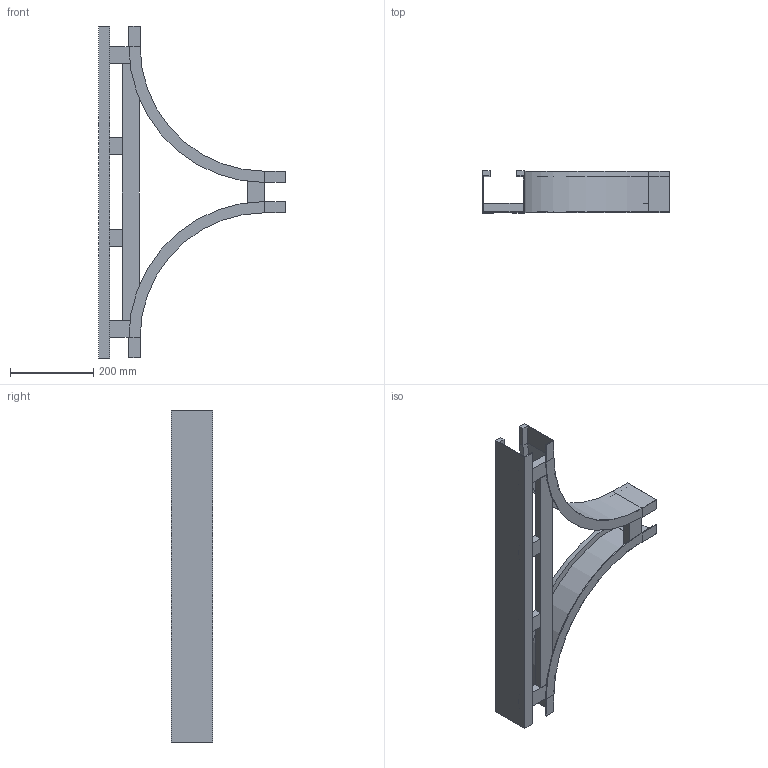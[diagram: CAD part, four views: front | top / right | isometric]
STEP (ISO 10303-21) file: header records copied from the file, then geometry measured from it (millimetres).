
FILE_DESCRIPTION (( 'STEP AP214' ), '1' );
FILE_NAME ('B2_15B3D100.step', '2025-02-21T15:50:00', ( '' ), ( '' ), 'SwSTEP 2.0', 'SolidWorks 2023', '' );
FILE_SCHEMA (( 'AUTOMOTIVE_DESIGN' ));
Length unit declared in the file: millimetre
Products named in the file (6): TRAVERSINO_100; TRAVERSINO_INTERMEDIO_R300+100; B2_LONGH.RETT_H100_R300+100; B2_LONGH.INTERNO 90°_H100_R300; B2_15B3D100; B2_TRAVERSINO_LONG._R300+100
Assembly tree (9 placements, depth 2):
  B2_15B3D100
    B2_LONGH.INTERNO 90°_H100_R300  x2
    B2_LONGH.RETT_H100_R300+100
    TRAVERSINO_100  x3
    B2_TRAVERSINO_LONG._R300+100
    TRAVERSINO_INTERMEDIO_R300+100  x2
Bounding box: 450 x 100 x 800 mm (x, y, z)
Volume: 1692093 mm3; surface area: 695782.8 mm2
Topology: 9 solids, 9 shells, 98 faces, 208 edges, 128 vertices
Faces by surface type: plane 90, cylinder 8
Entity records: 1639 total; most frequent: DIRECTION 256, CARTESIAN_POINT 254, ORIENTED_EDGE 232, EDGE_CURVE 116, VECTOR 108, LINE 108, AXIS2_PLACEMENT_3D 74, VERTEX_POINT 72
